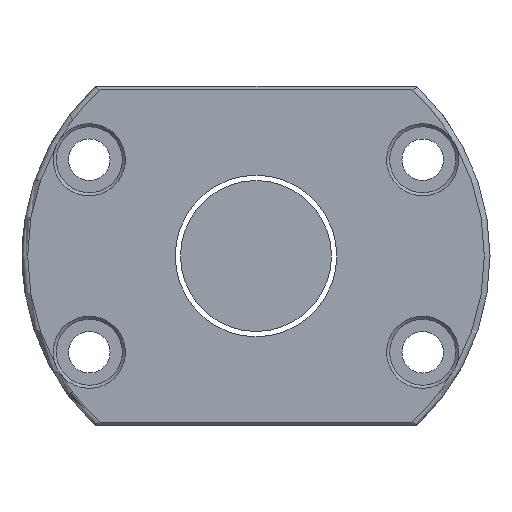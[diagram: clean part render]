
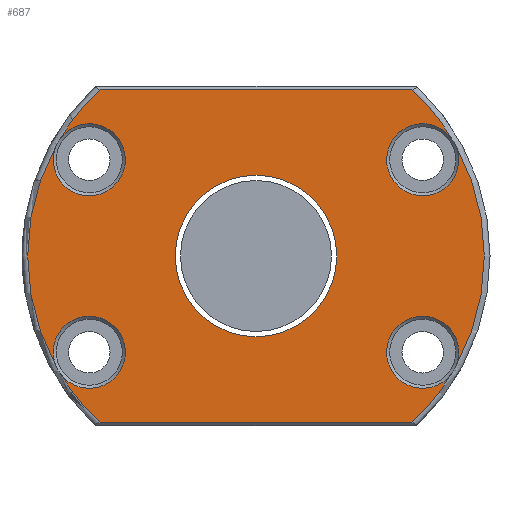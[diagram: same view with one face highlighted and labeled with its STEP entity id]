
A CAD part, left-side view. The second image highlights one B-rep face of the part: STEP entity #687.
In plain terms, the highlighted planar face has unit normal (-1, 0, 0).
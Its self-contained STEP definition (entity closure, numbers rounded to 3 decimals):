
#30 = DIRECTION ( 'NONE',  ( 0., 0., 1. ) ) ;
#31 = DIRECTION ( 'NONE',  ( 0., -1., 0. ) ) ;
#32 = DIRECTION ( 'NONE',  ( 1., 0., 0. ) ) ;
#57 = DIRECTION ( 'NONE',  ( -1., 0., 0. ) ) ;
#73 = CARTESIAN_POINT ( 'NONE',  ( -100., -42.65, -44.2 ) ) ;
#93 = VERTEX_POINT ( 'NONE', #1240 ) ;
#132 = CARTESIAN_POINT ( 'NONE',  ( -100., 42.65, 44.2 ) ) ;
#177 = EDGE_CURVE ( 'NONE', #257, #257, #330, .T. ) ;
#188 = CARTESIAN_POINT ( 'NONE',  ( -100., -41.311, 44.2 ) ) ;
#206 = CIRCLE ( 'NONE', #2077, 9.55 ) ;
#219 = AXIS2_PLACEMENT_3D ( 'NONE', #1090, #1842, #1292 ) ;
#223 = EDGE_LOOP ( 'NONE', ( #1891, #1235, #2931, #1859, #1358, #1905, #2800, #1478, #1074, #2186, #714, #745 ) ) ;
#230 = AXIS2_PLACEMENT_3D ( 'NONE', #2614, #2844, #2386 ) ;
#237 = CARTESIAN_POINT ( 'NONE',  ( -100., 0., 0. ) ) ;
#257 = VERTEX_POINT ( 'NONE', #3167 ) ;
#280 = AXIS2_PLACEMENT_3D ( 'NONE', #290, #32, #2483 ) ;
#290 = CARTESIAN_POINT ( 'NONE',  ( -100., 0., 0. ) ) ;
#303 = EDGE_CURVE ( 'NONE', #2943, #1527, #1609, .T. ) ;
#304 = DIRECTION ( 'NONE',  ( 0., 0., 1. ) ) ;
#318 = CARTESIAN_POINT ( 'NONE',  ( -100., 0., 0. ) ) ;
#330 = CIRCLE ( 'NONE', #280, 21.4 ) ;
#337 = LINE ( 'NONE', #73, #3120 ) ;
#342 = DIRECTION ( 'NONE',  ( 0., 0., 1. ) ) ;
#383 = VECTOR ( 'NONE', #773, 1000. ) ;
#387 = VERTEX_POINT ( 'NONE', #1127 ) ;
#468 = VERTEX_POINT ( 'NONE', #2624 ) ;
#482 = CARTESIAN_POINT ( 'NONE',  ( -100., 44.167, 25.5 ) ) ;
#488 = CIRCLE ( 'NONE', #2395, 9.55 ) ;
#514 = ORIENTED_EDGE ( 'NONE', *, *, #177, .T. ) ;
#536 = VERTEX_POINT ( 'NONE', #959 ) ;
#547 = CARTESIAN_POINT ( 'NONE',  ( -100., -51.855, -31.166 ) ) ;
#577 = VERTEX_POINT ( 'NONE', #1514 ) ;
#641 = DIRECTION ( 'NONE',  ( 1., 0., 0. ) ) ;
#687 = ADVANCED_FACE ( 'NONE', ( #1561, #1335 ), #1546, .T. ) ;
#698 = CARTESIAN_POINT ( 'NONE',  ( -100., 0., 0. ) ) ;
#708 = DIRECTION ( 'NONE',  ( 0., 0., 1. ) ) ;
#714 = ORIENTED_EDGE ( 'NONE', *, *, #994, .T. ) ;
#745 = ORIENTED_EDGE ( 'NONE', *, *, #1239, .T. ) ;
#773 = DIRECTION ( 'NONE',  ( 0., 1., 0. ) ) ;
#799 = CIRCLE ( 'NONE', #2861, 60.5 ) ;
#896 = CIRCLE ( 'NONE', #1573, 60.5 ) ;
#959 = CARTESIAN_POINT ( 'NONE',  ( -100., 41.311, -44.2 ) ) ;
#985 = DIRECTION ( 'NONE',  ( 0., 0., 1. ) ) ;
#994 = EDGE_CURVE ( 'NONE', #2060, #1255, #1266, .T. ) ;
#1013 = EDGE_CURVE ( 'NONE', #577, #2268, #2495, .T. ) ;
#1074 = ORIENTED_EDGE ( 'NONE', *, *, #3160, .T. ) ;
#1090 = CARTESIAN_POINT ( 'NONE',  ( -100., 62., 0. ) ) ;
#1094 = CARTESIAN_POINT ( 'NONE',  ( -100., -52.918, -29.325 ) ) ;
#1099 = DIRECTION ( 'NONE',  ( 0., 0., 1. ) ) ;
#1108 = AXIS2_PLACEMENT_3D ( 'NONE', #1401, #3068, #1612 ) ;
#1127 = CARTESIAN_POINT ( 'NONE',  ( -100., 52.918, 29.325 ) ) ;
#1195 = DIRECTION ( 'NONE',  ( 0., 0., 1. ) ) ;
#1234 = CARTESIAN_POINT ( 'NONE',  ( -100., 41.311, 44.2 ) ) ;
#1235 = ORIENTED_EDGE ( 'NONE', *, *, #1013, .T. ) ;
#1239 = EDGE_CURVE ( 'NONE', #1255, #536, #799, .T. ) ;
#1240 = CARTESIAN_POINT ( 'NONE',  ( -100., -51.855, 31.166 ) ) ;
#1255 = VERTEX_POINT ( 'NONE', #1418 ) ;
#1266 = CIRCLE ( 'NONE', #2089, 9.55 ) ;
#1275 = CIRCLE ( 'NONE', #3071, 60.5 ) ;
#1280 = CARTESIAN_POINT ( 'NONE',  ( -100., 0., 0. ) ) ;
#1292 = DIRECTION ( 'NONE',  ( 0., 0., 1. ) ) ;
#1335 = FACE_BOUND ( 'NONE', #3014, .T. ) ;
#1349 = EDGE_CURVE ( 'NONE', #1527, #468, #896, .T. ) ;
#1351 = AXIS2_PLACEMENT_3D ( 'NONE', #482, #2701, #985 ) ;
#1358 = ORIENTED_EDGE ( 'NONE', *, *, #1850, .T. ) ;
#1401 = CARTESIAN_POINT ( 'NONE',  ( -100., 0., 0. ) ) ;
#1418 = CARTESIAN_POINT ( 'NONE',  ( -100., 51.855, -31.166 ) ) ;
#1463 = DIRECTION ( 'NONE',  ( 0., 0., 1. ) ) ;
#1478 = ORIENTED_EDGE ( 'NONE', *, *, #1349, .T. ) ;
#1482 = CARTESIAN_POINT ( 'NONE',  ( -100., -52.918, 29.325 ) ) ;
#1514 = CARTESIAN_POINT ( 'NONE',  ( -100., -41.311, -44.2 ) ) ;
#1527 = VERTEX_POINT ( 'NONE', #1234 ) ;
#1529 = CIRCLE ( 'NONE', #230, 60.5 ) ;
#1546 = PLANE ( 'NONE',  #219 ) ;
#1561 = FACE_OUTER_BOUND ( 'NONE', #223, .T. ) ;
#1573 = AXIS2_PLACEMENT_3D ( 'NONE', #1280, #2497, #30 ) ;
#1609 = LINE ( 'NONE', #132, #383 ) ;
#1612 = DIRECTION ( 'NONE',  ( 0., 0., 1. ) ) ;
#1703 = DIRECTION ( 'NONE',  ( -1., 0., 0. ) ) ;
#1809 = CARTESIAN_POINT ( 'NONE',  ( -100., -44.167, 25.5 ) ) ;
#1822 = DIRECTION ( 'NONE',  ( 1., 0., 0. ) ) ;
#1842 = DIRECTION ( 'NONE',  ( -1., 0., 0. ) ) ;
#1850 = EDGE_CURVE ( 'NONE', #2670, #93, #488, .T. ) ;
#1859 = ORIENTED_EDGE ( 'NONE', *, *, #2688, .T. ) ;
#1891 = ORIENTED_EDGE ( 'NONE', *, *, #2225, .T. ) ;
#1905 = ORIENTED_EDGE ( 'NONE', *, *, #2352, .T. ) ;
#2019 = EDGE_CURVE ( 'NONE', #387, #2060, #1529, .T. ) ;
#2021 = CIRCLE ( 'NONE', #1351, 9.55 ) ;
#2060 = VERTEX_POINT ( 'NONE', #2828 ) ;
#2077 = AXIS2_PLACEMENT_3D ( 'NONE', #2669, #2929, #708 ) ;
#2089 = AXIS2_PLACEMENT_3D ( 'NONE', #2577, #641, #1099 ) ;
#2186 = ORIENTED_EDGE ( 'NONE', *, *, #2019, .T. ) ;
#2225 = EDGE_CURVE ( 'NONE', #536, #577, #337, .T. ) ;
#2268 = VERTEX_POINT ( 'NONE', #547 ) ;
#2352 = EDGE_CURVE ( 'NONE', #93, #2943, #1275, .T. ) ;
#2386 = DIRECTION ( 'NONE',  ( 0., 0., 1. ) ) ;
#2395 = AXIS2_PLACEMENT_3D ( 'NONE', #1809, #1822, #342 ) ;
#2415 = DIRECTION ( 'NONE',  ( -1., 0., 0. ) ) ;
#2483 = DIRECTION ( 'NONE',  ( 0., 0., -1. ) ) ;
#2495 = CIRCLE ( 'NONE', #1108, 60.5 ) ;
#2497 = DIRECTION ( 'NONE',  ( -1., 0., 0. ) ) ;
#2567 = VERTEX_POINT ( 'NONE', #1094 ) ;
#2577 = CARTESIAN_POINT ( 'NONE',  ( -100., 44.167, -25.5 ) ) ;
#2614 = CARTESIAN_POINT ( 'NONE',  ( -100., 0., 0. ) ) ;
#2624 = CARTESIAN_POINT ( 'NONE',  ( -100., 51.855, 31.166 ) ) ;
#2669 = CARTESIAN_POINT ( 'NONE',  ( -100., -44.167, -25.5 ) ) ;
#2670 = VERTEX_POINT ( 'NONE', #1482 ) ;
#2688 = EDGE_CURVE ( 'NONE', #2567, #2670, #2794, .T. ) ;
#2701 = DIRECTION ( 'NONE',  ( 1., 0., 0. ) ) ;
#2794 = CIRCLE ( 'NONE', #3152, 60.5 ) ;
#2800 = ORIENTED_EDGE ( 'NONE', *, *, #303, .T. ) ;
#2828 = CARTESIAN_POINT ( 'NONE',  ( -100., 52.918, -29.325 ) ) ;
#2844 = DIRECTION ( 'NONE',  ( -1., 0., 0. ) ) ;
#2861 = AXIS2_PLACEMENT_3D ( 'NONE', #237, #2415, #1195 ) ;
#2929 = DIRECTION ( 'NONE',  ( 1., 0., 0. ) ) ;
#2931 = ORIENTED_EDGE ( 'NONE', *, *, #3107, .T. ) ;
#2943 = VERTEX_POINT ( 'NONE', #188 ) ;
#3014 = EDGE_LOOP ( 'NONE', ( #514 ) ) ;
#3068 = DIRECTION ( 'NONE',  ( -1., 0., 0. ) ) ;
#3071 = AXIS2_PLACEMENT_3D ( 'NONE', #318, #57, #304 ) ;
#3107 = EDGE_CURVE ( 'NONE', #2268, #2567, #206, .T. ) ;
#3120 = VECTOR ( 'NONE', #31, 1000. ) ;
#3152 = AXIS2_PLACEMENT_3D ( 'NONE', #698, #1703, #1463 ) ;
#3160 = EDGE_CURVE ( 'NONE', #468, #387, #2021, .T. ) ;
#3167 = CARTESIAN_POINT ( 'NONE',  ( -100., 0., -21.4 ) ) ;
